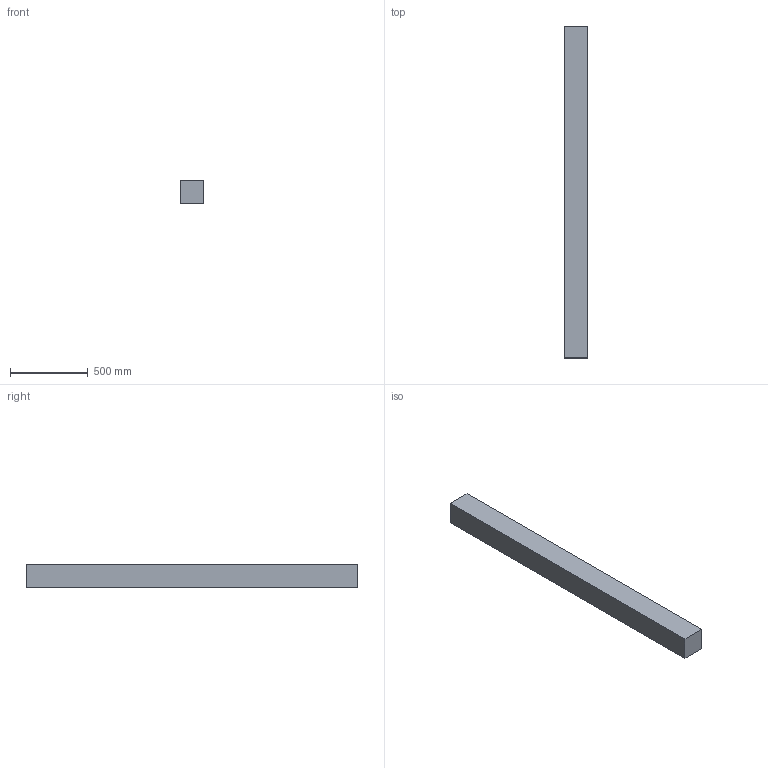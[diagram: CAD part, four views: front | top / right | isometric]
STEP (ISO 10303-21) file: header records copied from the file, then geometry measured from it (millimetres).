
FILE_DESCRIPTION(/* description */ (''),/* implementation_level */ '2;1');
FILE_NAME(/* name */ '6x6x84',/* time_stamp */ '2024-09-20T11:47:17-05:00',/* author */ (''),/* organization */ (''),/* preprocessor_version */ 'ST-DEVELOPER v19.2',/* originating_system */ 'Rhino 8.5',/* authorisation */ '');
FILE_SCHEMA (('CONFIG_CONTROL_DESIGN'));
Length unit declared in the file: inch
Products named in the file (1): Document
Bounding box: 152.4 x 2133.6 x 152.4 mm (x, y, z)
Volume: 49554481.5 mm3; surface area: 1347094.1 mm2
Topology: 1 solids, 1 shells, 6 faces, 12 edges, 8 vertices
Faces by surface type: plane 6
Entity records: 226 total; most frequent: CARTESIAN_POINT 40, ORIENTED_EDGE 24, EDGE_CURVE 12, B_SPLINE_CURVE_WITH_KNOTS 12, DIRECTION 10, VERTEX_POINT 8, AXIS2_PLACEMENT_3D 8, ORGANIZATION 7
